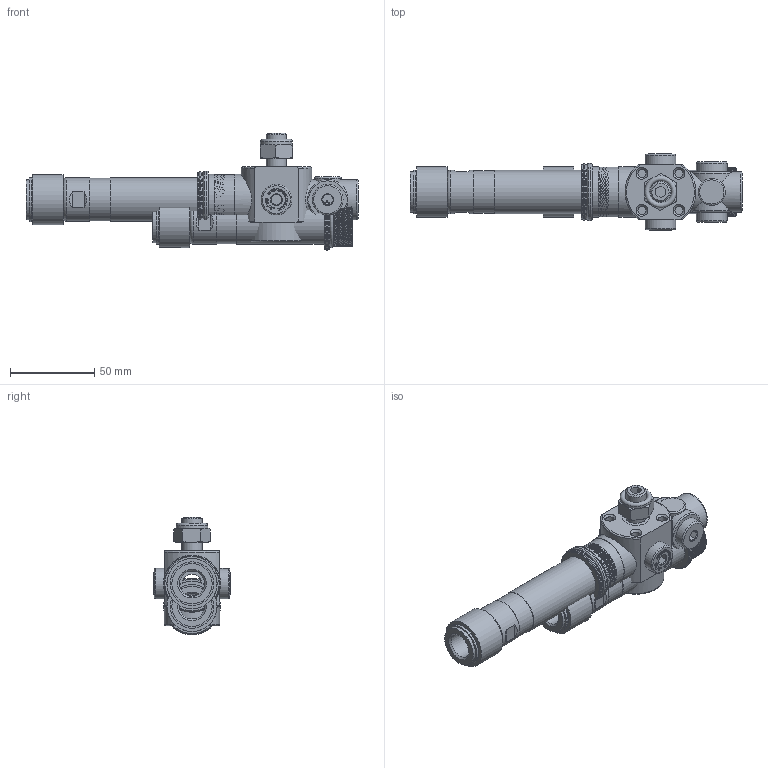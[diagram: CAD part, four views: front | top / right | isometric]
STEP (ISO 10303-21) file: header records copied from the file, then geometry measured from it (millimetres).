
FILE_DESCRIPTION( ( 'Unknown' ), '1' );
FILE_NAME( 'C:/Documents and Settings/Owner/官帕 拳搁/VSM 303P-12F-MT12.stp', 'Unknown', ( 'Unknown' ), ( 'Unknown' ), 'PSStep 10.0', 'Unknown', ' ' );
FILE_SCHEMA( ( 'AUTOMOTIVE_DESIGN { 1 0 10303 214 1 1 1 1 }' ) );
Length unit declared in the file: millimetre
Products named in the file (9): 303P; Assem1; speeder moudle_20130528_0; Plug14_New_PPS_0; VC303P; Screw nut(M12); Nylon nut(M12); Plug14_New_PPS
Bounding box: 197.4 x 45.4 x 69.87 mm (x, y, z)
Surface area: 138266.5 mm2 (no closed solid volume)
Topology: 0 solids, 1278 shells, 1287 faces, 5584 edges, 5275 vertices
Faces by surface type: plane 717, cylinder 194, cone 123, torus 92, extrusion 81, bspline 66, revolution 14
Full cylindrical faces by diameter (mm): 4.917 x12, 10.4 x2, 11.445 x18, 11.835 x3, 11.9 x2, 12 x2, 13 x2, 13.2 x2, 14.95 x3, 15.4 x3, 15.9 x2, 16 x3, 16.5 x9, 17 x3, 18.2 x9, 18.631 x3, 19 x2, 22.835 x3, 24 x9, 25 x3, 25.2 x3, 25.3 x3, 25.9 x6, 26 x3, 27.867 x6, 29.6 x3, 30 x6, 32.834 x6, 33 x3, 33.747 x3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
Entity records: 32732 total; most frequent: CARTESIAN_POINT 15558, DIRECTION 2582, ORIENTED_EDGE 1766, EDGE_CURVE 1766, VERTEX_POINT 1766, VECTOR 1041, LINE 1014, AXIS2_PLACEMENT_3D 767
